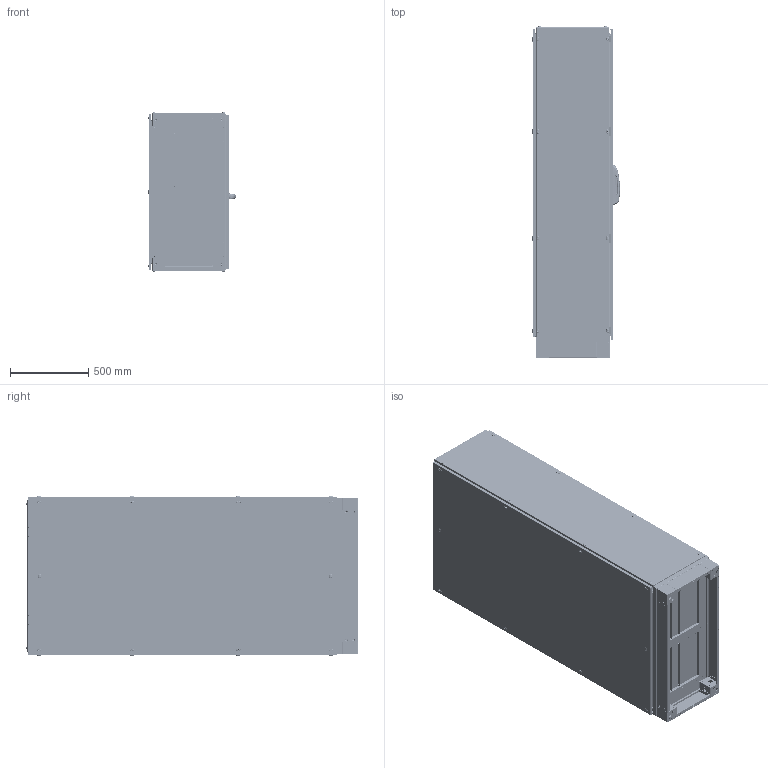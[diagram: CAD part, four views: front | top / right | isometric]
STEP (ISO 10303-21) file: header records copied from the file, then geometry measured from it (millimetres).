
FILE_DESCRIPTION (( 'STEP AP203' ), '1' );
FILE_NAME ('710.205 1000x2000x500.STEP', '2020-04-07T18:39:45', ( '' ), ( '' ), 'SwSTEP 2.0', 'SolidWorks 2019', '' );
FILE_SCHEMA (( 'CONFIG_CONTROL_DESIGN' ));
Length unit declared in the file: millimetre
Products named in the file (161): torque nut 02_iso_ISO 7041-M8-N; MP 18.7631 Kol-Cark; somu; L KOSE DESTEKorj1; kose rondela kabartmaSIZ 10; M8 KAFES SOMUN_m8; 03taban derinlik percinli_PP 12.0024 - 500; mp aLT DAYAMA_PP 12.0092 - 500; Teos-Neo 3mm MOUNTING PLATE_TEOS MP 1000x2000; k2-29 2018-2; PB 14.0004 M6 HAVÞA PLASTÝK CÝVATA; hex screw_am_B18.6.7M - M12 x 1.75 x 20 Indented HHMS --20N; 8502-001-M6_kapal-_1 2018-2; M6 HAVÞA PLASTÝK CÝVATA; MP 18.7631; k2-26 2018-2; mentese bakýr kapak 09-201 2018-2; mentese orta 09-201; percinli taban-vidalý kapak-kose pls yok_701.050-100X50 ALT; kapali dikey profilkenetli_ita oluklu10-aaaaaaaaaaaa-1_1000; M8 Kare Somun_m8; YP1189-1-M6_kapal-_1 2018-2; on Kapi 2 mm SAG V DAYAMALI 05-2017 2018-2_PP 17.1071 1000x2000 sa§; TEOS SIDE PANEL_706.205 2000X500; k2-28 2018-2; M6 KAFES SOMU2015; k2-31 2018-2; MP 18.7631 Kayar Parça; Teos-Neo MP Sað Braket Montaj_Standart Pozisyon; mentese ust alt 09-2010; yan arka kapak baglantý saci; BAZA SISTEMIV2-6 baza kapaðý201550x40_TEKPAN LOGOLU; MP 18.7631 Gövde-Plastik; kose rondela kabartmaSIZ 12; BAZA KÖÞES_SOL; TEOS 禽FT KAPAK sol 2020_1000x2000; ENINE DELIKLI PROFIL 2018-2_1000; socket button head cap screw_am_B18.3.4M - 8 x 1.25 x 16 SBHCS --N; Teos-Neo MP Sol Braket Montaj_Standart Pozisyon; Teos-Neo MP Durdurucu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
Assembly tree (462 placements, depth 7):
  710.205 1000x2000x500
    TEOS iskelet_1000x2000x500
      kapali dikey profilkenetli_ita oluklu10-aaaaaaaaaaaa-1_2000   x4
      kapali dikey profilkenetli_ita oluklu10-aaaaaaaaaaaa-1_500  x4
      kapali dikey profilkenetli_ita oluklu10-aaaaaaaaaaaa-1_1000  x4
      L KOSE DESTEKorj1  x8
      kose rondela kabartmaSIZ 10  x15
      kose rondela kabartmaSIZ 12
      MP 11.0140 TEOS ALUMINYUM KOSE APPROVED 16.08.2010  x8
      M5 DÝKEY PROFÝL RONDELA  x16
      percinli taban-vidalý kapak-kose pls yok_701.050-100X50 ALT
        03-taban genislik percinli 04 - 2012 100-120_PP 12.0021 - 1000  x2
        03taban derinlik percinli_PP 12.0024 - 500  x2
        03-KOSE PUNT_PP 12.0027
        03-KOSE PUNT
        Mirror03-KOSE PUNT  x2
        TEOS V2 BAZA S嵞TEM廆1000X500
          BAZA KÖÞES_SAG
            V2 BAZA KOSESI2015_100
            BAZA SISTEMIV2-6 baza kapaðý201550x40_TEKPAN LOGOLU
            M6 KAFES SOMU2015
              kafes somun kafes
              somu
            M6 KAFES SOMU2015
              kafes somun kafes
              somu
          V2 -2011 DT BAZA KAPAGI ON_PP 12.0047 - 1000  x2
          BAZA KÖÞES_SOL
            V2 BAZA KOSESI2015_100
            BAZA SISTEMIV2-6 baza kapaðý201550x40
            M6 KAFES SOMU2015
              kafes somun kafes
              somu
            M6 KAFES SOMU2015
              kafes somun kafes
              somu
          BAZA KÖÞES_SAG
            V2 BAZA KOSESI2015_100
            BAZA SISTEMIV2-6 baza kapaðý201550x40_TEKPAN LOGOLU
            M6 KAFES SOMU2015
              kafes somun kafes
              somu
            M6 KAFES SOMU2015
              kafes somun kafes
              somu
          BAZA KÖÞES_SOL
            V2 BAZA KOSESI2015_100
            BAZA SISTEMIV2-6 baza kapaðý201550x40
            M6 KAFES SOMU2015
              kafes somun kafes
              somu
            M6 KAFES SOMU2015
              kafes somun kafes
              somu
          V3 -2011 DT BAZA KAPAGI yan_PP 12.0050 - 500  x2
          flat head screw_am_B18.6.7M - M6 x 1.0 x 20 Type I Cross Recessed FHMS --20N  x8
        03taban derinlik orta  percinli 04-2012_PP 12.0054 -500
        03-TABAN SACI SURGU_PP 12.0032 - 1000  x2
        03-TABAN SACI U1 04-2012_PP 12.0042 - 1000-75  x2
        03-TABAN SACI U1 04-2012_PP 12.0037 - 1000-200  x2
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Bounding box: 559.22 x 2117.1 x 1018.87 mm (x, y, z)
Volume: 26386316.4 mm3; surface area: 27642256 mm2
Topology: 398 solids, 438 shells, 58893 faces, 160251 edges, 101898 vertices
Faces by surface type: plane 35734, cylinder 17248, bspline 2714, torus 1263, cone 1189, sphere 745
Entity records: 817582 total; most frequent: CARTESIAN_POINT 335568, ORIENTED_EDGE 98566, DIRECTION 89305, EDGE_CURVE 49283, VECTOR 31829, LINE 31829, VERTEX_POINT 31490, AXIS2_PLACEMENT_3D 28738
